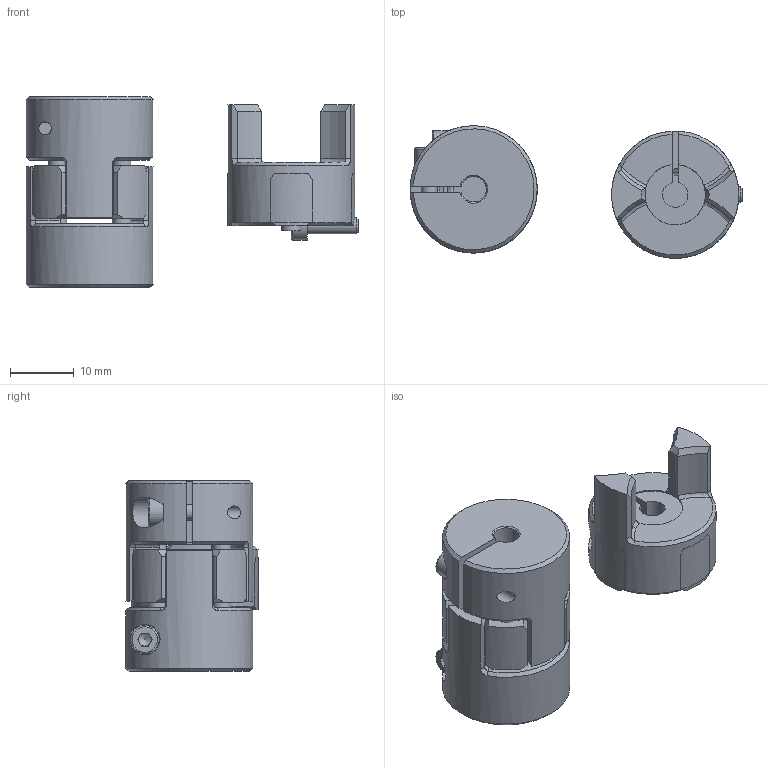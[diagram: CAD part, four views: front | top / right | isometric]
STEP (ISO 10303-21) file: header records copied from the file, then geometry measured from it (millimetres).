
FILE_DESCRIPTION( ( 'Unknown' ), '1' );
FILE_NAME( 'C:/Dokumente und Einstellungen/Sven/Desktop/homepage/cad - homepage/KBE2/KBE2-9.stp', 'Unknown', ( 'Unknown' ), ( 'Unknown' ), 'XStep 1.0', 'Unknown', ' ' );
FILE_SCHEMA( ( 'automotive_design' ) );
Length unit declared in the file: millimetre
Products named in the file (4): Assem1; KN9_Standard; ZK9_Standard; Socket Head Cap Screw_DIN_DIN 912 M2.5 x 8 --- 8N
Bounding box: 52.2 x 20.83 x 30 mm (x, y, z)
Volume: 12875.7 mm3; surface area: 8441.3 mm2
Topology: 8 solids, 8 shells, 292 faces, 715 edges, 457 vertices
Faces by surface type: plane 103, cylinder 80, cone 75, torus 22, bspline 12
Full cylindrical faces by diameter (mm): 2.05 x3, 2.5 x3, 2.8 x3, 3 x8, 4.5 x3, 7.2 x4
Entity records: 4014 total; most frequent: CARTESIAN_POINT 1029, DIRECTION 545, ORIENTED_EDGE 510, EDGE_CURVE 255, AXIS2_PLACEMENT_3D 234, VERTEX_POINT 174, EDGE_LOOP 144, FACE_OUTER_BOUND 128
